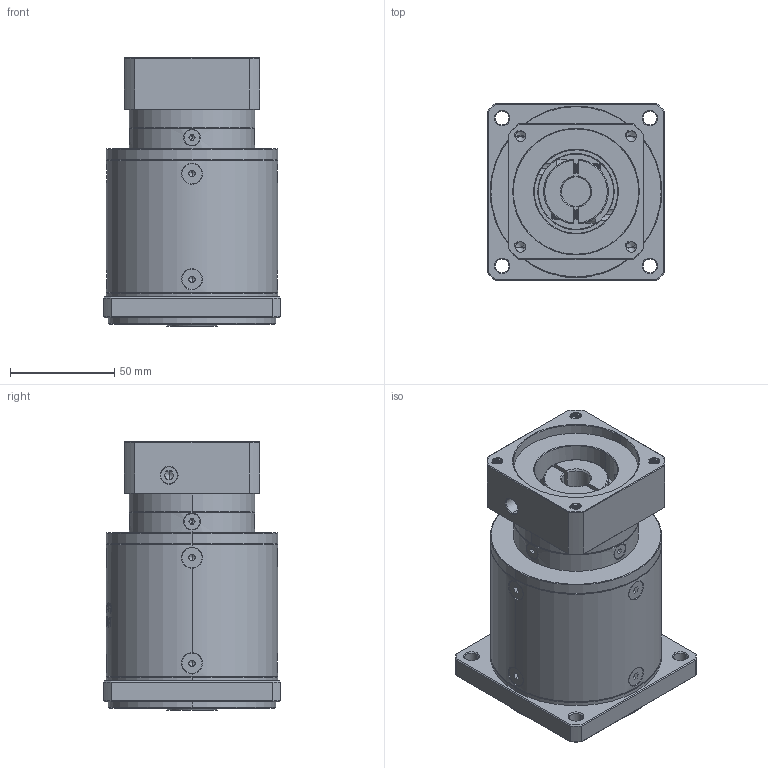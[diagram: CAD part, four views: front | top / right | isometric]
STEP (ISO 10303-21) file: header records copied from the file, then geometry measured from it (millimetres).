
FILE_DESCRIPTION (( 'STEP AP214' ), '1' );
FILE_NAME ('ZF080-K15-L3-P2-14-60-75-M6.step', '2023-08-19T07:00:55', ( '' ), ( '' ), 'SwSTEP 2.0', 'SolidWorks 2016', '' );
FILE_SCHEMA (( 'AUTOMOTIVE_DESIGN' ));
Length unit declared in the file: millimetre
Products named in the file (1): ZF080-K15-L3-P2-14-60-75-M6
Bounding box: 85 x 85 x 128.5 mm (x, y, z)
Volume: 566919.7 mm3; surface area: 74688.2 mm2
Topology: 18 solids, 18 shells, 2279 faces, 6009 edges, 3831 vertices
Faces by surface type: plane 1123, cylinder 405, bspline 390, cone 321, torus 40
Entity records: 120434 total; most frequent: CARTESIAN_POINT 43929, ORIENTED_EDGE 11946, DIRECTION 8973, EDGE_CURVE 5973, VERTEX_POINT 3831, VECTOR 3177, LINE 3177, AXIS2_PLACEMENT_3D 2898
